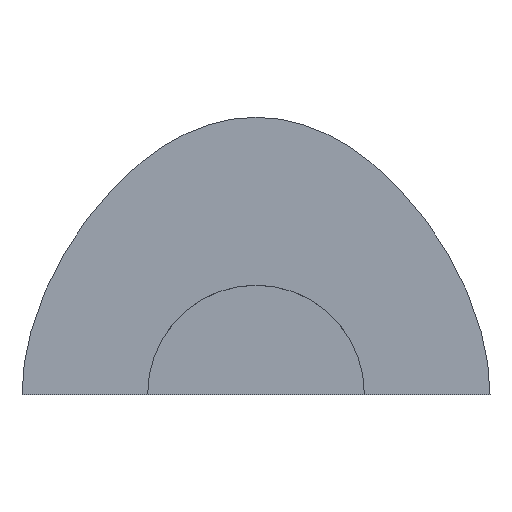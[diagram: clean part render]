
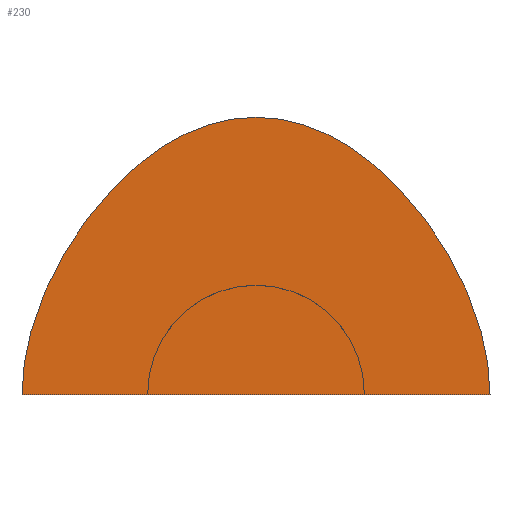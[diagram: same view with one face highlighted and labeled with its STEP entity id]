
A CAD part, top view. The second image highlights one B-rep face of the part: STEP entity #230.
In plain terms, the highlighted planar face has unit normal (0, 0, 1).
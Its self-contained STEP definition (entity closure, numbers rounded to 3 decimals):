
#193=CARTESIAN_POINT('Axis2P3D Location',(0.,51.948,0.)) ;
#198=CARTESIAN_POINT('Line Origine',(0.,0.,0.)) ;
#202=CARTESIAN_POINT('Vertex',(-108.,0.,0.)) ;
#204=CARTESIAN_POINT('Vertex',(108.,0.,0.)) ;
#208=CARTESIAN_POINT('Control Point',(0.,128.,0.)) ;
#209=CARTESIAN_POINT('Control Point',(33.495,128.,0.)) ;
#210=CARTESIAN_POINT('Control Point',(64.682,108.561,0.)) ;
#211=CARTESIAN_POINT('Control Point',(93.561,69.682,0.)) ;
#212=CARTESIAN_POINT('Control Point',(108.,33.495,0.)) ;
#213=CARTESIAN_POINT('Control Point',(108.,0.,0.)) ;
#214=CARTESIAN_POINT('Vertex',(0.,128.,0.)) ;
#218=CARTESIAN_POINT('Control Point',(0.,128.,0.)) ;
#219=CARTESIAN_POINT('Control Point',(-33.495,128.,0.)) ;
#220=CARTESIAN_POINT('Control Point',(-64.682,108.561,0.)) ;
#221=CARTESIAN_POINT('Control Point',(-93.561,69.682,0.)) ;
#222=CARTESIAN_POINT('Control Point',(-108.,33.495,0.)) ;
#223=CARTESIAN_POINT('Control Point',(-108.,0.,0.)) ;
#194=DIRECTION('Axis2P3D Direction',(0.,0.,1.)) ;
#195=DIRECTION('Axis2P3D XDirection',(1.,0.,0.)) ;
#199=DIRECTION('Vector Direction',(1.,0.,0.)) ;
#196=AXIS2_PLACEMENT_3D('Plane Axis2P3D',#193,#194,#195) ;
#226=ORIENTED_EDGE('',*,*,#206,.T.) ;
#227=ORIENTED_EDGE('',*,*,#216,.T.) ;
#228=ORIENTED_EDGE('',*,*,#224,.T.) ;
#200=VECTOR('Line Direction',#199,1.) ;
#230=ADVANCED_FACE('Fill.1',(#229),#197,.T.) ;
#207=B_SPLINE_CURVE_WITH_KNOTS('',5,(#208,#209,#210,#211,#212,#213),.UNSPECIFIED.,.F.,.U.,(6,6),(0.,167.475),.UNSPECIFIED.) ;
#217=B_SPLINE_CURVE_WITH_KNOTS('',5,(#218,#219,#220,#221,#222,#223),.UNSPECIFIED.,.F.,.U.,(6,6),(0.,167.475),.UNSPECIFIED.) ;
#206=EDGE_CURVE('',#203,#205,#201,.T.) ;
#216=EDGE_CURVE('',#205,#215,#207,.F.) ;
#224=EDGE_CURVE('',#215,#203,#217,.T.) ;
#225=EDGE_LOOP('',(#226,#227,#228)) ;
#229=FACE_OUTER_BOUND('',#225,.T.) ;
#201=LINE('Line',#198,#200) ;
#197=PLANE('',#196) ;
#203=VERTEX_POINT('',#202) ;
#205=VERTEX_POINT('',#204) ;
#215=VERTEX_POINT('',#214) ;
